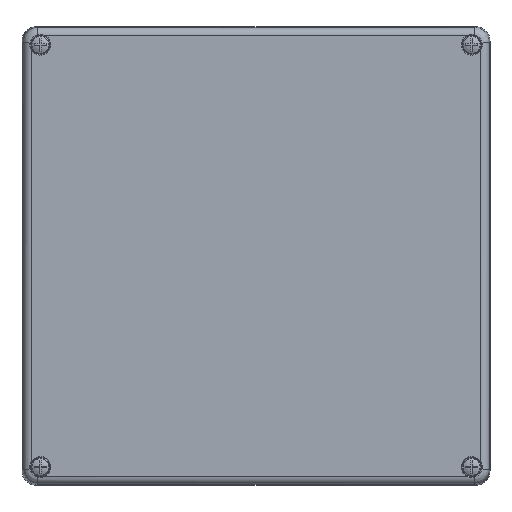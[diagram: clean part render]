
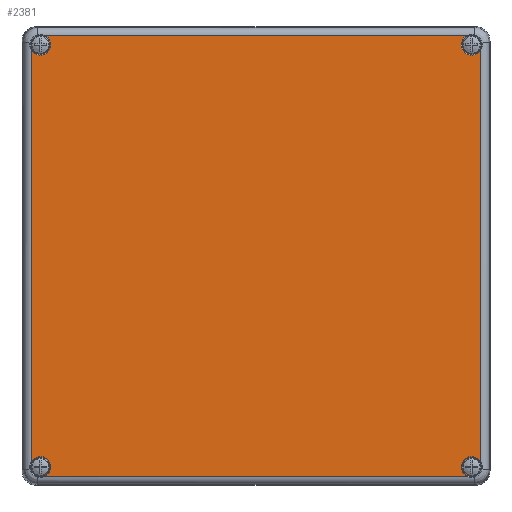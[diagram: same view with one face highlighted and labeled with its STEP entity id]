
A CAD part, top view. The second image highlights one B-rep face of the part: STEP entity #2381.
In plain terms, the highlighted planar face has unit normal (0, 0, 1).
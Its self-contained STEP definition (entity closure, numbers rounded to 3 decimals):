
#1319=CIRCLE('',#19783,5.662);
#1320=CIRCLE('',#19784,5.662);
#1321=CIRCLE('',#19785,5.662);
#1322=CIRCLE('',#19786,5.662);
#2381=ADVANCED_FACE('',(#3973),#3018,.F.);
#3018=PLANE('',#19787);
#3973=FACE_OUTER_BOUND('',#5118,.T.);
#5118=EDGE_LOOP('',(#10473,#10474,#10475,#10476,#10477,#10478,#10479,#10480));
#10473=ORIENTED_EDGE('',*,*,#15004,.T.);
#10474=ORIENTED_EDGE('',*,*,#15020,.F.);
#10475=ORIENTED_EDGE('',*,*,#15017,.F.);
#10476=ORIENTED_EDGE('',*,*,#15021,.T.);
#10477=ORIENTED_EDGE('',*,*,#14867,.T.);
#10478=ORIENTED_EDGE('',*,*,#15022,.F.);
#10479=ORIENTED_EDGE('',*,*,#14880,.F.);
#10480=ORIENTED_EDGE('',*,*,#15023,.T.);
#12226=VERTEX_POINT('',#33301);
#12229=VERTEX_POINT('',#33422);
#12302=VERTEX_POINT('',#35002);
#12305=VERTEX_POINT('',#35123);
#12379=VERTEX_POINT('',#36726);
#12380=VERTEX_POINT('',#36805);
#12451=VERTEX_POINT('',#38437);
#12452=VERTEX_POINT('',#38516);
#14867=EDGE_CURVE('',#12302,#12379,#16733,.T.);
#14880=EDGE_CURVE('',#12229,#12380,#16746,.T.);
#15004=EDGE_CURVE('',#12226,#12451,#16799,.T.);
#15017=EDGE_CURVE('',#12305,#12452,#16812,.T.);
#15020=EDGE_CURVE('',#12452,#12451,#1319,.T.);
#15021=EDGE_CURVE('',#12305,#12302,#1320,.T.);
#15022=EDGE_CURVE('',#12380,#12379,#1321,.T.);
#15023=EDGE_CURVE('',#12229,#12226,#1322,.T.);
#16733=LINE('',#37197,#18395);
#16746=LINE('',#37220,#18408);
#16799=LINE('',#38908,#18461);
#16812=LINE('',#38931,#18474);
#18395=VECTOR('',#23881,1.);
#18408=VECTOR('',#23914,1.);
#18461=VECTOR('',#24049,1.);
#18474=VECTOR('',#24082,1.);
#19783=AXIS2_PLACEMENT_3D('',#38938,#24093,#24094);
#19784=AXIS2_PLACEMENT_3D('',#38939,#24095,#24096);
#19785=AXIS2_PLACEMENT_3D('',#38940,#24097,#24098);
#19786=AXIS2_PLACEMENT_3D('',#38941,#24099,#24100);
#19787=AXIS2_PLACEMENT_3D('',#38942,#24101,#24102);
#23881=DIRECTION('',(0.,-1.,0.));
#23914=DIRECTION('',(-1.,0.,0.));
#24049=DIRECTION('',(0.,1.,0.));
#24082=DIRECTION('',(1.,0.,0.));
#24093=DIRECTION('',(0.,0.,1.));
#24094=DIRECTION('',(1.,0.,0.));
#24095=DIRECTION('',(0.,0.,-1.));
#24096=DIRECTION('',(-1.,0.,0.));
#24097=DIRECTION('',(0.,0.,1.));
#24098=DIRECTION('',(-1.,0.,0.));
#24099=DIRECTION('',(0.,0.,-1.));
#24100=DIRECTION('',(1.,0.,0.));
#24101=DIRECTION('',(0.,0.,-1.));
#24102=DIRECTION('',(-1.,0.,0.));
#33301=CARTESIAN_POINT('',(122.462,-112.271,25.));
#33422=CARTESIAN_POINT('',(114.771,-119.962,25.));
#35002=CARTESIAN_POINT('',(-122.462,112.271,25.));
#35123=CARTESIAN_POINT('',(-114.771,119.962,25.));
#36726=CARTESIAN_POINT('',(-122.462,-112.271,25.));
#36805=CARTESIAN_POINT('',(-114.771,-119.962,25.));
#37197=CARTESIAN_POINT('',(-122.462,112.271,25.));
#37220=CARTESIAN_POINT('',(114.771,-119.962,25.));
#38437=CARTESIAN_POINT('',(122.462,112.271,25.));
#38516=CARTESIAN_POINT('',(114.771,119.962,25.));
#38908=CARTESIAN_POINT('',(122.462,-112.271,25.));
#38931=CARTESIAN_POINT('',(-114.771,119.962,25.));
#38938=CARTESIAN_POINT('',(117.5,115.,25.));
#38939=CARTESIAN_POINT('',(-117.5,115.,25.));
#38940=CARTESIAN_POINT('',(-117.5,-115.,25.));
#38941=CARTESIAN_POINT('',(117.5,-115.,25.));
#38942=CARTESIAN_POINT('',(-122.463,119.963,25.));
